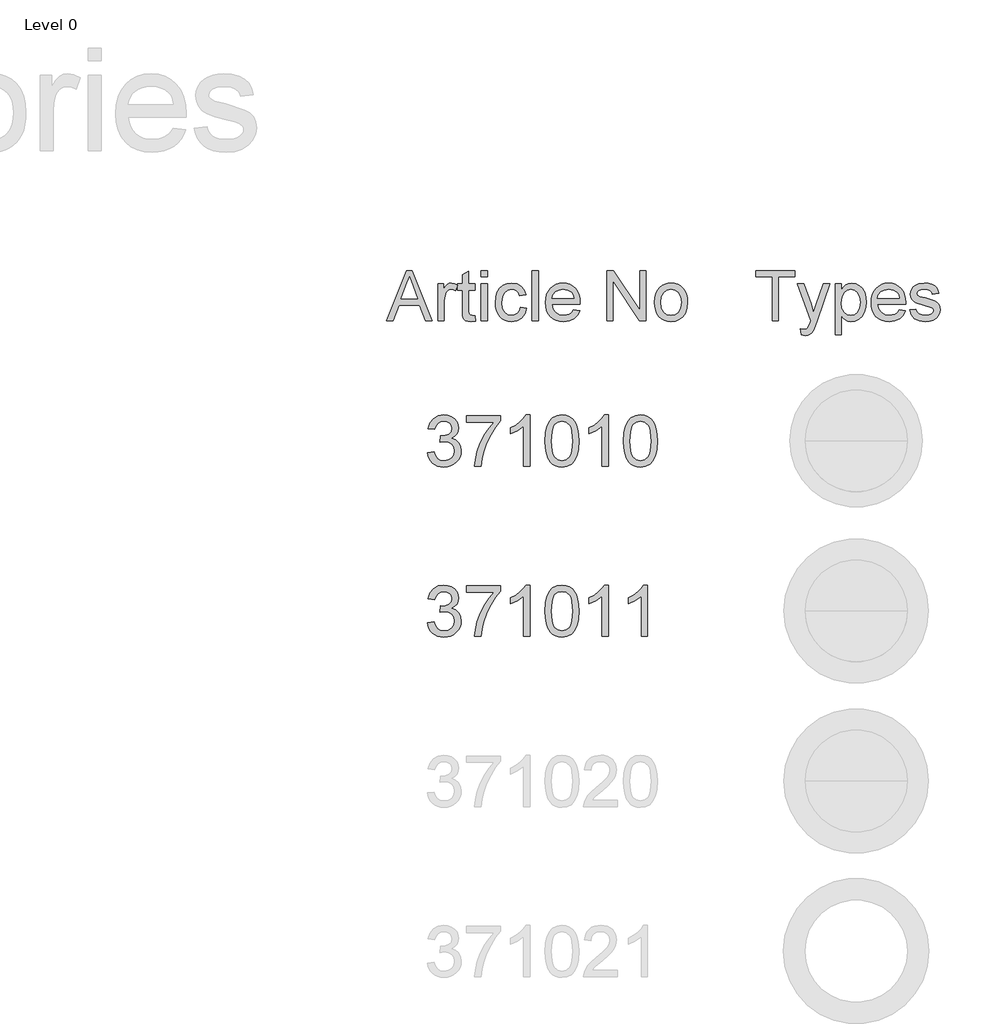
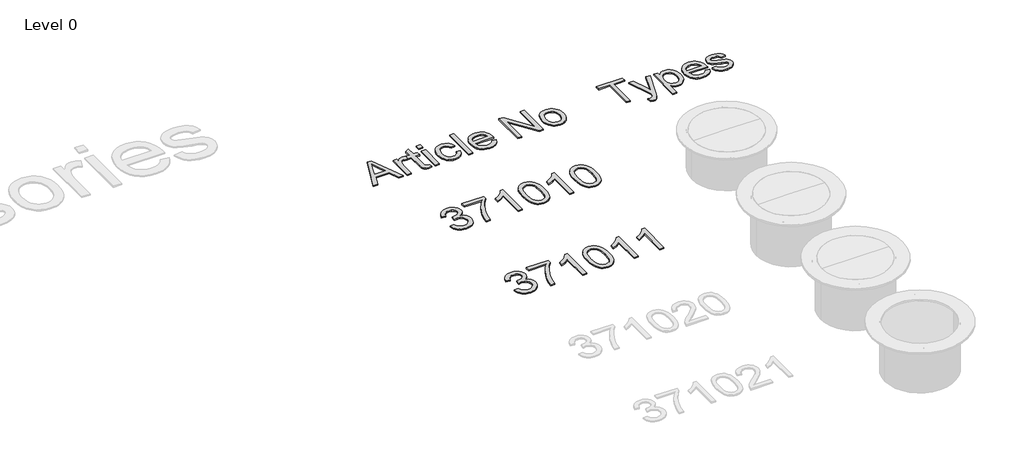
# One storey, part 11 of 20: 4 proxies.
"""IFC4 building model written with IfcOpenShell, lengths in millimetres."""

from ifc_helpers import new_model, si_unit, origin, origin_with_axes, place, context, project, spatial, polyline, outline, extrude, element, save

model = new_model("IFC4")

# Units and contexts
model_context = context("Model", 3, world=origin())
ifc_project = project(units=[si_unit("LENGTHUNIT", "METRE", prefix="MILLI")], contexts=[model_context])

# Site, building, storey
site = spatial("IfcSite", under=ifc_project)
building = spatial("IfcBuilding", under=site)
storey = spatial("IfcBuildingStorey", under=building, Name="Level 0", Elevation=0.0)

# Proxies
placement = place(None, origin())
element("IfcBuildingElementProxy", 1, Name="300mm Arial", ObjectType="300mm Arial", at=placement, inside=storey, context=model_context, shape_type="SweptSolid", body=[
    extrude(outline(polyline([(-4263.9663544, -8345.8973897), (-4263.9663544, -8087.4358512), (-4360.8894313, -8087.4358512), (-4360.8894313, -8050.5127743), (-4130.1202005, -8050.5127743), (-4130.1202005, -8087.4358512), (-4227.0432775, -8087.4358512), (-4227.0432775, -8345.8973897), (-4263.9663544, -8345.8973897)])), origin_with_axes(), (0.0, 0.0, 1.0), 10.0),
    extrude(outline(polyline([(-4093.1971236, -8428.9743127), (-4097.8125082, -8393.4214281), (-4079.0625082, -8396.6666204), (-4061.5384698, -8392.5921012), (-4050.7932775, -8381.2339281), (-4040.6971236, -8354.0464281), (-4037.8125082, -8345.1041204), (-4116.2740467, -8128.9743127), (-4077.331739, -8128.9743127), (-4035.7211621, -8249.407005), (-4021.2259698, -8297.580082), (-4006.7307775, -8255.032005), (-3963.9663544, -8128.9743127), (-3925.3125082, -8128.9743127), (-4000.8173159, -8351.0896974), (-4020.4327005, -8399.2627743), (-4030.4747678, -8414.64138), (-4041.8509698, -8425.2964281), (-4055.066114, -8431.51638), (-4070.6250082, -8433.5896974), (-4093.1971236, -8428.9743127)])), origin_with_axes(), (0.0, 0.0, 1.0), 10.0),
    extrude(outline(polyline([(-3894.7355852, -8428.9743127), (-3894.7355852, -8128.9743127), (-3857.8125082, -8128.9743127), (-3857.8125082, -8165.1762358), (-3845.769239, -8147.3186637), (-3832.2836621, -8134.563255), (-3816.5625082, -8126.9100099), (-3797.8125082, -8124.3589281), (-3772.8425563, -8127.9286397), (-3751.0096236, -8138.6377743), (-3733.2331813, -8155.8372935), (-3720.4327005, -8178.8781589), (-3712.6983255, -8206.0836877), (-3710.1202005, -8235.7771974), (-3713.0318592, -8267.3547214), (-3721.7668352, -8295.5969089), (-3736.0456813, -8319.0704666), (-3755.5889505, -8336.3421012), (-3778.3503688, -8346.970106), (-3802.2836621, -8350.5127743), (-3819.2578207, -8348.141981), (-3834.4110659, -8341.0296012), (-3847.3828207, -8330.2934233), (-3857.8125082, -8317.0512358), (-3857.8125082, -8428.9743127), (-3894.7355852, -8428.9743127)]), holes=[polyline([(-3857.8125082, -8239.1666204), (-3853.8191188, -8272.267582), (-3841.8389505, -8295.4166204), (-3824.1616669, -8309.0464281), (-3803.0769313, -8313.5896974), (-3781.6496477, -8308.8841685), (-3763.5216428, -8294.767582), (-3751.1628688, -8270.7711877), (-3747.0432775, -8236.4262358), (-3751.0637102, -8203.5055627), (-3763.1250082, -8180.032005), (-3780.7752486, -8165.969505), (-3801.5625082, -8161.282005), (-3822.4308977, -8166.266981), (-3840.7572198, -8181.2219089), (-3853.5486861, -8205.6780387), (-3857.8125082, -8239.1666204)])]), origin_with_axes(), (0.0, 0.0, 1.0), 10.0),
    extrude(outline(polyline([(-3516.706739, -8281.282005), (-3480.5048159, -8285.8973897), (-3493.5486861, -8313.1750339), (-3514.362989, -8333.5656589), (-3542.4789746, -8346.2759954), (-3577.4278928, -8350.5127743), (-3600.3380491, -8348.6851), (-3620.7512102, -8343.2020772), (-3638.667376, -8334.0637058), (-3654.0865467, -8321.2699858), (-3666.4858856, -8305.176987), (-3675.3425563, -8286.1407791), (-3680.6565587, -8264.161362), (-3682.4278928, -8239.2387358), (-3680.6385299, -8213.4710074), (-3675.2704409, -8190.7591685), (-3666.323626, -8171.103219), (-3653.7980852, -8154.5031589), (-3638.4194794, -8141.3150579), (-3620.9134698, -8131.8949858), (-3601.2800563, -8126.2429425), (-3579.519239, -8124.3589281), (-3558.4592931, -8126.2384353), (-3539.4140707, -8131.876957), (-3522.3835719, -8141.274493), (-3507.3677967, -8154.4310435), (-3495.1104349, -8170.9950459), (-3486.3551765, -8190.6149377), (-3481.1020215, -8213.290719), (-3479.3509698, -8239.0223897), (-3479.5673159, -8248.9743127), (-3645.5048159, -8248.9743127), (-3639.11359, -8276.6125339), (-3624.2668352, -8296.9310435), (-3602.8395515, -8309.4250339), (-3576.706739, -8313.5896974), (-3557.0552967, -8311.6606108), (-3540.5048159, -8305.8733512), (-3527.0552967, -8295.8673416), (-3516.706739, -8281.282005)]), holes=[polyline([(-3645.5048159, -8212.0512358), (-3516.2740467, -8212.0512358), (-3521.2680371, -8192.5440243), (-3531.0577005, -8178.5896974), (-3552.5841428, -8165.6089281), (-3579.6634698, -8161.282005), (-3604.5522919, -8164.7345291), (-3625.1322198, -8175.0921012), (-3639.4381092, -8191.2369329), (-3645.5048159, -8212.0512358)])]), origin_with_axes(), (0.0, 0.0, 1.0), 10.0),
    extrude(outline(polyline([(-3456.2740467, -8281.282005), (-3419.3509698, -8276.6666204), (-3413.5276525, -8292.4598897), (-3402.2596236, -8304.0704666), (-3385.4747678, -8311.2098897), (-3363.1009698, -8313.5896974), (-3340.9976044, -8311.408207), (-3325.456739, -8304.8637358), (-3316.2620275, -8295.3805627), (-3313.1971236, -8284.3829666), (-3316.2800563, -8274.9719089), (-3325.5288544, -8267.7964281), (-3363.5336621, -8257.267582), (-3419.1346236, -8239.2026781), (-3433.206138, -8230.1251541), (-3443.4014505, -8218.1089281), (-3449.5943592, -8203.9202262), (-3451.6586621, -8188.3252743), (-3450.0000082, -8174.0193849), (-3445.0240467, -8160.813255), (-3437.1814986, -8149.2297214), (-3426.9230852, -8139.7916204), (-3403.4495275, -8128.8661397), (-3371.6827005, -8124.3589281), (-3347.6502486, -8126.1708272), (-3326.7548159, -8131.6065243), (-3309.9519313, -8140.1341685), (-3298.1971236, -8151.2219089), (-3290.4086621, -8165.6900579), (-3285.5048159, -8184.3589281), (-3322.4278928, -8188.9743127), (-3327.0883496, -8177.3547214), (-3336.3101044, -8168.6017166), (-3350.1833015, -8163.1119329), (-3368.7980852, -8161.282005), (-3390.0000082, -8163.0308031), (-3404.1346236, -8168.2771974), (-3412.0853448, -8175.8493127), (-3414.7355852, -8184.5752743), (-3410.3365467, -8195.3204666), (-3396.5625082, -8203.469505), (-3364.7596236, -8211.330082), (-3310.5649121, -8228.7098897), (-3296.2500082, -8237.0211877), (-3285.3966428, -8248.3973897), (-3278.5546957, -8262.8745531), (-3276.2740467, -8280.4887358), (-3278.9513303, -8298.6978704), (-3286.9831813, -8315.8252743), (-3300.0631092, -8330.5277983), (-3317.8846236, -8341.4622935), (-3339.4110659, -8348.2501541), (-3363.6057775, -8350.5127743), (-3400.8353448, -8346.1497935), (-3428.0048159, -8333.0608512), (-3446.1418352, -8311.3901781), (-3456.2740467, -8281.282005)])), origin_with_axes(), (0.0, 0.0, 1.0), 10.0),
])
element("IfcBuildingElementProxy", 2, Name="300mm Arial", ObjectType="300mm Arial", at=placement, inside=storey, context=model_context, shape_type="SweptSolid", body=[
    extrude(outline(polyline([(-6292.0538732, -9120.650521), (-6254.3827568, -9115.9416315), (-6245.9490621, -9139.6148379), (-6233.5974241, -9155.5993106), (-6216.7208376, -9164.7043899), (-6194.7122972, -9167.7394164), (-6168.8869812, -9163.5639558), (-6148.947777, -9151.0375738), (-6136.2006659, -9132.3491685), (-6131.9516289, -9109.6876376), (-6136.1638777, -9088.1757379), (-6148.8006242, -9070.7289343), (-6167.930488, -9059.1682426), (-6191.6220885, -9055.3146787), (-6218.0360157, -9059.434957), (-6213.842161, -9021.7638407), (-6207.8088963, -9022.2052991), (-6185.2393359, -9019.5013664), (-6165.0610084, -9011.3895685), (-6150.8239752, -8997.66757), (-6146.0782975, -8978.1330361), (-6149.5179941, -8961.8634549), (-6159.8370841, -8948.6656883), (-6175.5824335, -8939.9192938), (-6195.3009084, -8937.003829), (-6215.0561716, -8939.946885), (-6231.2061912, -8948.7760529), (-6242.9968091, -8963.4913327), (-6249.6738673, -8984.0927244), (-6287.3449836, -8979.3838349), (-6276.2533415, -8945.5570854), (-6256.5164724, -8920.3019864), (-6229.513934, -8904.5750312), (-6196.6252836, -8899.3327127), (-6172.9428802, -8901.9170837), (-6151.1918572, -8909.6701968), (-6132.8529397, -8921.9022731), (-6119.4068528, -8937.923534), (-6111.1570991, -8956.3820131), (-6108.4071812, -8975.9257441), (-6111.0191433, -8994.1359029), (-6118.8550298, -9010.6538045), (-6131.8044761, -9024.7252908), (-6149.7571174, -9035.5962037), (-6126.1758815, -9045.1243474), (-6108.7014868, -9061.3479434), (-6097.8857561, -9083.3840749), (-6094.2805125, -9110.3498252), (-6096.0831343, -9129.4612948), (-6101.4909997, -9147.0644483), (-6110.5041085, -9163.1592856), (-6123.122461, -9177.7458067), (-6138.4953298, -9189.8491243), (-6155.771988, -9198.4943512), (-6174.9524356, -9203.6814873), (-6196.0366724, -9205.4105327), (-6215.0929598, -9203.9344062), (-6232.4569899, -9199.5060267), (-6248.1287629, -9192.1253942), (-6262.1082787, -9181.7925086), (-6273.8299188, -9169.1143754), (-6282.7280646, -9154.6979997), (-6288.802716, -9138.5433816), (-6292.0538732, -9120.650521)])), origin_with_axes(), (0.0, 0.0, 1.0), 10.0),
    extrude(outline(polyline([(-6061.3182858, -8941.7127186), (-6061.3182858, -8904.0416023), (-5863.5449252, -8904.0416023), (-5863.5449252, -8934.5022315), (-5891.7338831, -8970.1775879), (-5919.6469294, -9015.546635), (-5944.267432, -9066.4707002), (-5962.5787583, -9118.811111), (-5971.555079, -9157.9721494), (-5976.5582741, -9200.7016432), (-6014.2293904, -9200.7016432), (-6010.1550973, -9161.8716986), (-5999.2565932, -9115.7209023), (-5981.8281837, -9066.801794), (-5958.1641743, -9019.6669133), (-5930.5362365, -8977.0569813), (-5901.2160415, -8941.7127186), (-6061.3182858, -8941.7127186)])), origin_with_axes(), (0.0, 0.0, 1.0), 10.0),
    extrude(outline(polyline([(-5689.3160123, -9200.7016432), (-5726.9871286, -9200.7016432), (-5726.9871286, -8965.8457775), (-5762.6716821, -8991.2664233), (-5802.3293612, -9010.2859225), (-5802.3293612, -8974.6749453), (-5772.7424517, -8958.580108), (-5747.1102737, -8939.4318502), (-5726.9043551, -8919.0695818), (-5713.5962239, -8899.3327127), (-5689.3160123, -8899.3327127), (-5689.3160123, -9200.7016432)])), origin_with_axes(), (0.0, 0.0, 1.0), 10.0),
    extrude(outline(polyline([(-5599.847111, -9052.4451991), (-5597.078799, -9004.2066725), (-5588.773863, -8965.7354129), (-5575.0150764, -8936.442809), (-5555.8852126, -8915.7402497), (-5531.246316, -8903.434597), (-5500.9604307, -8899.3327127), (-5477.7470768, -8901.7607339), (-5456.9617441, -8909.0447974), (-5439.5793198, -8920.8997947), (-5426.5746913, -8937.0406172), (-5416.752242, -8957.3293093), (-5408.9163555, -8981.627915), (-5403.7844017, -9012.4840174), (-5402.0737504, -9052.4451991), (-5404.8144713, -9100.4078142), (-5413.0366339, -9138.7871034), (-5426.7126471, -9168.1072984), (-5445.8149197, -9188.8926311), (-5470.5089986, -9201.2810573), (-5500.9604307, -9205.4105327), (-5521.7089753, -9203.617108), (-5540.103075, -9198.2368338), (-5556.14273, -9189.2697102), (-5569.8279402, -9176.7157371), (-5582.9613275, -9154.0220165), (-5592.3423183, -9125.7456867), (-5597.9709129, -9091.8867475), (-5599.847111, -9052.4451991)]), holes=[polyline([(-5562.1759947, -9052.3716227), (-5557.7614108, -9111.6282151), (-5552.2431809, -9131.8962138), (-5544.517659, -9145.9240141), (-5524.799184, -9162.2855658), (-5500.9604307, -9167.7394164), (-5477.1216774, -9162.2671717), (-5457.4032025, -9145.8504377), (-5449.6776806, -9131.7996447), (-5444.1594507, -9111.5362446), (-5439.7448667, -9052.3716227), (-5444.0122979, -8994.4486026), (-5449.3465868, -8974.2472825), (-5456.8145913, -8959.8860891), (-5476.496278, -8942.7243941), (-5501.4018891, -8937.003829), (-5524.983125, -8942.0438124), (-5543.9290478, -8957.1637624), (-5551.9120871, -8972.7987472), (-5557.614258, -8993.8783855), (-5562.1759947, -9052.3716227)])]), origin_with_axes(), (0.0, 0.0, 1.0), 10.0),
    extrude(outline(polyline([(-5227.8448375, -9200.7016432), (-5265.5159538, -9200.7016432), (-5265.5159538, -8965.8457775), (-5301.2005073, -8991.2664233), (-5340.8581864, -9010.2859225), (-5340.8581864, -8974.6749453), (-5311.271277, -8958.580108), (-5285.639099, -8939.4318502), (-5265.4331804, -8919.0695818), (-5252.1250492, -8899.3327127), (-5227.8448375, -8899.3327127), (-5227.8448375, -9200.7016432)])), origin_with_axes(), (0.0, 0.0, 1.0), 10.0),
    extrude(outline(polyline([(-5138.3759363, -9052.4451991), (-5135.6076243, -9004.2066725), (-5127.3026882, -8965.7354129), (-5113.5439016, -8936.442809), (-5094.4140379, -8915.7402497), (-5069.7751412, -8903.434597), (-5039.489256, -8899.3327127), (-5016.2759021, -8901.7607339), (-4995.4905694, -8909.0447974), (-4978.1081451, -8920.8997947), (-4965.1035166, -8937.0406172), (-4955.2810673, -8957.3293093), (-4947.4451808, -8981.627915), (-4942.313227, -9012.4840174), (-4940.6025757, -9052.4451991), (-4943.3432965, -9100.4078142), (-4951.5654591, -9138.7871034), (-4965.2414723, -9168.1072984), (-4984.3437449, -9188.8926311), (-5009.0378238, -9201.2810573), (-5039.489256, -9205.4105327), (-5060.2378005, -9203.617108), (-5078.6319003, -9198.2368338), (-5094.6715553, -9189.2697102), (-5108.3567655, -9176.7157371), (-5121.4901527, -9154.0220165), (-5130.8711436, -9125.7456867), (-5136.4997381, -9091.8867475), (-5138.3759363, -9052.4451991)]), holes=[polyline([(-5100.70482, -9052.3716227), (-5096.290236, -9111.6282151), (-5090.7720061, -9131.8962138), (-5083.0464842, -9145.9240141), (-5063.3280093, -9162.2855658), (-5039.489256, -9167.7394164), (-5015.6505027, -9162.2671717), (-4995.9320277, -9145.8504377), (-4988.2065058, -9131.7996447), (-4982.6882759, -9111.5362446), (-4978.273692, -9052.3716227), (-4982.5411231, -8994.4486026), (-4987.8754121, -8974.2472825), (-4995.3434166, -8959.8860891), (-5015.0251033, -8942.7243941), (-5039.9307144, -8937.003829), (-5063.5119503, -8942.0438124), (-5082.457873, -8957.1637624), (-5090.4409123, -8972.7987472), (-5096.1430832, -8993.8783855), (-5100.70482, -9052.3716227)])]), origin_with_axes(), (0.0, 0.0, 1.0), 10.0),
])
element("IfcBuildingElementProxy", 3, Name="300mm Arial", ObjectType="300mm Arial", at=placement, inside=storey, context=model_context, shape_type="SweptSolid", body=[
    extrude(outline(polyline([(-6292.0538732, -10120.650521), (-6254.3827568, -10115.9416315), (-6245.9490621, -10139.6148379), (-6233.5974241, -10155.5993106), (-6216.7208376, -10164.7043899), (-6194.7122972, -10167.7394164), (-6168.8869812, -10163.5639558), (-6148.947777, -10151.0375738), (-6136.2006659, -10132.3491685), (-6131.9516289, -10109.6876376), (-6136.1638777, -10088.1757379), (-6148.8006242, -10070.7289343), (-6167.930488, -10059.1682426), (-6191.6220885, -10055.3146787), (-6218.0360157, -10059.434957), (-6213.842161, -10021.7638407), (-6207.8088963, -10022.2052991), (-6185.2393359, -10019.5013664), (-6165.0610084, -10011.3895685), (-6150.8239752, -9997.66757), (-6146.0782975, -9978.1330361), (-6149.5179941, -9961.8634549), (-6159.8370841, -9948.6656883), (-6175.5824335, -9939.9192938), (-6195.3009084, -9937.003829), (-6215.0561716, -9939.946885), (-6231.2061912, -9948.7760529), (-6242.9968091, -9963.4913327), (-6249.6738673, -9984.0927244), (-6287.3449836, -9979.3838349), (-6276.2533415, -9945.5570854), (-6256.5164724, -9920.3019864), (-6229.513934, -9904.5750312), (-6196.6252836, -9899.3327127), (-6172.9428802, -9901.9170837), (-6151.1918572, -9909.6701968), (-6132.8529397, -9921.9022731), (-6119.4068528, -9937.923534), (-6111.1570991, -9956.3820131), (-6108.4071812, -9975.9257441), (-6111.0191433, -9994.1359029), (-6118.8550298, -10010.6538045), (-6131.8044761, -10024.7252908), (-6149.7571174, -10035.5962037), (-6126.1758815, -10045.1243474), (-6108.7014868, -10061.3479434), (-6097.8857561, -10083.3840749), (-6094.2805125, -10110.3498252), (-6096.0831343, -10129.4612948), (-6101.4909997, -10147.0644483), (-6110.5041085, -10163.1592856), (-6123.122461, -10177.7458067), (-6138.4953298, -10189.8491243), (-6155.771988, -10198.4943512), (-6174.9524356, -10203.6814873), (-6196.0366724, -10205.4105327), (-6215.0929598, -10203.9344062), (-6232.4569899, -10199.5060267), (-6248.1287629, -10192.1253942), (-6262.1082787, -10181.7925086), (-6273.8299188, -10169.1143754), (-6282.7280646, -10154.6979997), (-6288.802716, -10138.5433816), (-6292.0538732, -10120.650521)])), origin_with_axes(), (0.0, 0.0, 1.0), 10.0),
    extrude(outline(polyline([(-6061.3182858, -9941.7127186), (-6061.3182858, -9904.0416023), (-5863.5449252, -9904.0416023), (-5863.5449252, -9934.5022315), (-5891.7338831, -9970.1775879), (-5919.6469294, -10015.546635), (-5944.267432, -10066.4707002), (-5962.5787583, -10118.811111), (-5971.555079, -10157.9721494), (-5976.5582741, -10200.7016432), (-6014.2293904, -10200.7016432), (-6010.1550973, -10161.8716986), (-5999.2565932, -10115.7209023), (-5981.8281837, -10066.801794), (-5958.1641743, -10019.6669133), (-5930.5362365, -9977.0569813), (-5901.2160415, -9941.7127186), (-6061.3182858, -9941.7127186)])), origin_with_axes(), (0.0, 0.0, 1.0), 10.0),
    extrude(outline(polyline([(-5689.3160123, -10200.7016432), (-5726.9871286, -10200.7016432), (-5726.9871286, -9965.8457775), (-5762.6716821, -9991.2664233), (-5802.3293612, -10010.2859225), (-5802.3293612, -9974.6749453), (-5772.7424517, -9958.580108), (-5747.1102737, -9939.4318502), (-5726.9043551, -9919.0695818), (-5713.5962239, -9899.3327127), (-5689.3160123, -9899.3327127), (-5689.3160123, -10200.7016432)])), origin_with_axes(), (0.0, 0.0, 1.0), 10.0),
    extrude(outline(polyline([(-5599.847111, -10052.4451991), (-5597.078799, -10004.2066725), (-5588.773863, -9965.7354129), (-5575.0150764, -9936.442809), (-5555.8852126, -9915.7402497), (-5531.246316, -9903.434597), (-5500.9604307, -9899.3327127), (-5477.7470768, -9901.7607339), (-5456.9617441, -9909.0447974), (-5439.5793198, -9920.8997947), (-5426.5746913, -9937.0406172), (-5416.752242, -9957.3293093), (-5408.9163555, -9981.627915), (-5403.7844017, -10012.4840174), (-5402.0737504, -10052.4451991), (-5404.8144713, -10100.4078142), (-5413.0366339, -10138.7871034), (-5426.7126471, -10168.1072984), (-5445.8149197, -10188.8926311), (-5470.5089986, -10201.2810573), (-5500.9604307, -10205.4105327), (-5521.7089753, -10203.617108), (-5540.103075, -10198.2368338), (-5556.14273, -10189.2697102), (-5569.8279402, -10176.7157371), (-5582.9613275, -10154.0220165), (-5592.3423183, -10125.7456867), (-5597.9709129, -10091.8867475), (-5599.847111, -10052.4451991)]), holes=[polyline([(-5562.1759947, -10052.3716227), (-5557.7614108, -10111.6282151), (-5552.2431809, -10131.8962138), (-5544.517659, -10145.9240141), (-5524.799184, -10162.2855658), (-5500.9604307, -10167.7394164), (-5477.1216774, -10162.2671717), (-5457.4032025, -10145.8504377), (-5449.6776806, -10131.7996447), (-5444.1594507, -10111.5362446), (-5439.7448667, -10052.3716227), (-5444.0122979, -9994.4486026), (-5449.3465868, -9974.2472825), (-5456.8145913, -9959.8860891), (-5476.496278, -9942.7243941), (-5501.4018891, -9937.003829), (-5524.983125, -9942.0438124), (-5543.9290478, -9957.1637624), (-5551.9120871, -9972.7987472), (-5557.614258, -9993.8783855), (-5562.1759947, -10052.3716227)])]), origin_with_axes(), (0.0, 0.0, 1.0), 10.0),
    extrude(outline(polyline([(-5227.8448375, -10200.7016432), (-5265.5159538, -10200.7016432), (-5265.5159538, -9965.8457775), (-5301.2005073, -9991.2664233), (-5340.8581864, -10010.2859225), (-5340.8581864, -9974.6749453), (-5311.271277, -9958.580108), (-5285.639099, -9939.4318502), (-5265.4331804, -9919.0695818), (-5252.1250492, -9899.3327127), (-5227.8448375, -9899.3327127), (-5227.8448375, -10200.7016432)])), origin_with_axes(), (0.0, 0.0, 1.0), 10.0),
    extrude(outline(polyline([(-4997.1092501, -10200.7016432), (-5034.7803664, -10200.7016432), (-5034.7803664, -9965.8457775), (-5070.46492, -9991.2664233), (-5110.1225991, -10010.2859225), (-5110.1225991, -9974.6749453), (-5080.5356896, -9958.580108), (-5054.9035116, -9939.4318502), (-5034.697593, -9919.0695818), (-5021.3894618, -9899.3327127), (-4997.1092501, -9899.3327127), (-4997.1092501, -10200.7016432)])), origin_with_axes(), (0.0, 0.0, 1.0), 10.0),
])
element("IfcBuildingElementProxy", 4, Name="300mm Arial", ObjectType="300mm Arial", at=placement, inside=storey, context=model_context, shape_type="SweptSolid", body=[
    extrude(outline(polyline([(-6532.2115467, -8345.8973897), (-6414.3028928, -8050.5127743), (-6382.8605852, -8050.5127743), (-6264.9519313, -8345.8973897), (-6303.9663544, -8345.8973897), (-6337.7884698, -8253.5896974), (-6459.4471236, -8253.5896974), (-6493.1971236, -8345.8973897), (-6532.2115467, -8345.8973897)]), holes=[polyline([(-6445.8894313, -8216.6666204), (-6351.2740467, -8216.6666204), (-6377.8846236, -8144.0464281), (-6398.581739, -8087.4358512), (-6416.9711621, -8137.7002743), (-6445.8894313, -8216.6666204)])]), origin_with_axes(), (0.0, 0.0, 1.0), 10.0),
    extrude(outline(polyline([(-6230.1202005, -8345.8973897), (-6230.1202005, -8128.9743127), (-6197.8125082, -8128.9743127), (-6197.8125082, -8161.0656589), (-6185.8774121, -8142.4598897), (-6174.8798159, -8131.4983512), (-6163.8461621, -8126.1437839), (-6151.8028928, -8124.3589281), (-6133.4134698, -8127.2074858), (-6114.7355852, -8135.7531589), (-6127.0673159, -8168.8541204), (-6140.0480852, -8163.1750339), (-6153.0288544, -8161.282005), (-6164.0534938, -8163.1029185), (-6173.9062582, -8168.5656589), (-6181.8659938, -8177.2555627), (-6187.2115467, -8188.7579666), (-6191.7007294, -8209.3829666), (-6193.1971236, -8231.8829666), (-6193.1971236, -8345.8973897), (-6230.1202005, -8345.8973897)])), origin_with_axes(), (0.0, 0.0, 1.0), 10.0),
    extrude(outline(polyline([(-6013.1971236, -8315.1041204), (-6008.581739, -8346.9791204), (-6036.2019313, -8350.5127743), (-6053.9242871, -8348.9803224), (-6067.1394313, -8344.3829666), (-6076.4783736, -8337.29763), (-6082.5721236, -8328.3012358), (-6085.925489, -8312.8505147), (-6087.0432775, -8286.4021974), (-6087.0432775, -8165.8973897), (-6114.7355852, -8165.8973897), (-6114.7355852, -8128.9743127), (-6087.0432775, -8128.9743127), (-6087.0432775, -8076.2579666), (-6050.1202005, -8054.5512358), (-6050.1202005, -8128.9743127), (-6013.1971236, -8128.9743127), (-6013.1971236, -8165.8973897), (-6050.1202005, -8165.8973897), (-6050.1202005, -8285.3204666), (-6048.1730852, -8304.3589281), (-6041.862989, -8311.1017166), (-6029.2788544, -8313.5896974), (-6013.1971236, -8315.1041204)])), origin_with_axes(), (0.0, 0.0, 1.0), 10.0),
    extrude(outline(polyline([(-5976.2740467, -8087.4358512), (-5976.2740467, -8050.5127743), (-5939.3509698, -8050.5127743), (-5939.3509698, -8087.4358512), (-5976.2740467, -8087.4358512)])), origin_with_axes(), (0.0, 0.0, 1.0), 10.0),
    extrude(outline(polyline([(-5976.2740467, -8345.8973897), (-5976.2740467, -8128.9743127), (-5939.3509698, -8128.9743127), (-5939.3509698, -8345.8973897), (-5976.2740467, -8345.8973897)])), origin_with_axes(), (0.0, 0.0, 1.0), 10.0),
    extrude(outline(polyline([(-5745.5048159, -8267.4358512), (-5708.581739, -8272.0512358), (-5718.8762102, -8304.8907791), (-5738.2211621, -8329.7074858), (-5764.7956813, -8345.3114522), (-5796.7788544, -8350.5127743), (-5817.4872378, -8348.6986216), (-5836.0546957, -8343.2561637), (-5852.4812282, -8334.1854005), (-5866.7668352, -8321.486332), (-5878.3300864, -8305.3978404), (-5886.5895515, -8286.1588079), (-5891.5452306, -8263.7692346), (-5893.1971236, -8238.2291204), (-5890.3756092, -8205.3715483), (-5881.9110659, -8176.8949858), (-5867.6682775, -8153.8991925), (-5847.5120275, -8137.4839281), (-5823.3984457, -8127.6401781), (-5797.2836621, -8124.3589281), (-5766.0847438, -8128.8661397), (-5741.1418352, -8142.3877743), (-5723.2482053, -8164.2026781), (-5713.1971236, -8193.5896974), (-5750.1202005, -8198.205082), (-5756.8179169, -8182.0963079), (-5767.2476044, -8170.548832), (-5780.83234, -8163.5987118), (-5796.9952005, -8161.282005), (-5820.8563784, -8165.8433031), (-5839.7956813, -8179.5271974), (-5852.1544553, -8203.0728704), (-5856.2740467, -8237.219505), (-5852.2445996, -8271.8258752), (-5840.1562582, -8295.4526781), (-5821.5595034, -8309.0554425), (-5798.0048159, -8313.5896974), (-5778.8852246, -8310.7591685), (-5763.2091428, -8302.267582), (-5751.8058977, -8287.8985916), (-5745.5048159, -8267.4358512)])), origin_with_axes(), (0.0, 0.0, 1.0), 10.0),
    extrude(outline(polyline([(-5676.2740467, -8345.8973897), (-5676.2740467, -8050.5127743), (-5639.3509698, -8050.5127743), (-5639.3509698, -8345.8973897), (-5676.2740467, -8345.8973897)])), origin_with_axes(), (0.0, 0.0, 1.0), 10.0),
    extrude(outline(polyline([(-5432.0913544, -8281.282005), (-5395.8894313, -8285.8973897), (-5408.9333015, -8313.1750339), (-5429.7476044, -8333.5656589), (-5457.86359, -8346.2759954), (-5492.8125082, -8350.5127743), (-5515.7226645, -8348.6851), (-5536.1358255, -8343.2020772), (-5554.0519914, -8334.0637058), (-5569.4711621, -8321.2699858), (-5581.870501, -8305.176987), (-5590.7271717, -8286.1407791), (-5596.0411741, -8264.161362), (-5597.8125082, -8239.2387358), (-5596.0231453, -8213.4710074), (-5590.6550563, -8190.7591685), (-5581.7082414, -8171.103219), (-5569.1827005, -8154.5031589), (-5553.8040948, -8141.3150579), (-5536.2980852, -8131.8949858), (-5516.6646717, -8126.2429425), (-5494.9038544, -8124.3589281), (-5473.8439085, -8126.2384353), (-5454.7986861, -8131.876957), (-5437.7681873, -8141.274493), (-5422.7524121, -8154.4310435), (-5410.4950503, -8170.9950459), (-5401.7397919, -8190.6149377), (-5396.4866368, -8213.290719), (-5394.7355852, -8239.0223897), (-5394.9519313, -8248.9743127), (-5560.8894313, -8248.9743127), (-5554.4982053, -8276.6125339), (-5539.6514505, -8296.9310435), (-5518.2241669, -8309.4250339), (-5492.0913544, -8313.5896974), (-5472.4399121, -8311.6606108), (-5455.8894313, -8305.8733512), (-5442.4399121, -8295.8673416), (-5432.0913544, -8281.282005)]), holes=[polyline([(-5560.8894313, -8212.0512358), (-5431.6586621, -8212.0512358), (-5436.6526525, -8192.5440243), (-5446.4423159, -8178.5896974), (-5467.9687582, -8165.6089281), (-5495.0480852, -8161.282005), (-5519.9369073, -8164.7345291), (-5540.5168352, -8175.0921012), (-5554.8227246, -8191.2369329), (-5560.8894313, -8212.0512358)])]), origin_with_axes(), (0.0, 0.0, 1.0), 10.0),
    extrude(outline(polyline([(-5237.8125082, -8345.8973897), (-5237.8125082, -8050.5127743), (-5198.2932775, -8050.5127743), (-5043.9663544, -8284.5271974), (-5043.9663544, -8050.5127743), (-5007.0432775, -8050.5127743), (-5007.0432775, -8345.8973897), (-5046.5625082, -8345.8973897), (-5200.8894313, -8111.8108512), (-5200.8894313, -8345.8973897), (-5237.8125082, -8345.8973897)])), origin_with_axes(), (0.0, 0.0, 1.0), 10.0),
    extrude(outline(polyline([(-4956.2740467, -8237.4358512), (-4954.277352, -8209.3424017), (-4948.2872678, -8185.1341685), (-4938.3037943, -8164.8111517), (-4924.3269313, -8148.3733512), (-4910.2554169, -8137.8670411), (-4894.7235659, -8130.3625339), (-4877.7313784, -8125.8598296), (-4859.2788544, -8124.3589281), (-4838.9085118, -8126.1866024), (-4820.4897919, -8131.6696252), (-4804.0226945, -8140.8079966), (-4789.5072198, -8153.6017166), (-4777.6600142, -8169.6180928), (-4769.1977246, -8188.4244329), (-4764.1203508, -8210.020737), (-4762.4278928, -8234.407005), (-4765.4206813, -8271.7086877), (-4774.3990467, -8300.1041204), (-4789.1015707, -8321.3691445), (-4809.2668352, -8337.2796012), (-4833.2181573, -8347.204481), (-4859.2788544, -8350.5127743), (-4879.9466729, -8348.6918608), (-4898.5366669, -8343.2291204), (-4915.0488364, -8334.1245531), (-4929.4831813, -8321.3781589), (-4941.2041849, -8305.2062839), (-4949.5763303, -8285.8252743), (-4954.5996176, -8263.23513), (-4956.2740467, -8237.4358512)]), holes=[polyline([(-4919.3509698, -8237.3637358), (-4915.0781332, -8270.7802022), (-4902.2596236, -8294.5872935), (-4882.9687582, -8308.8390964), (-4859.2788544, -8313.5896974), (-4835.6971236, -8308.8120531), (-4816.4423159, -8294.4791204), (-4803.6238063, -8270.3565243), (-4799.3509698, -8236.2098897), (-4803.6508496, -8203.766981), (-4816.550489, -8180.2844089), (-4835.83234, -8166.032606), (-4859.2788544, -8161.282005), (-4882.9687582, -8166.0145772), (-4902.2596236, -8180.2122935), (-4915.0781332, -8203.9652983), (-4919.3509698, -8237.3637358)])]), origin_with_axes(), (0.0, 0.0, 1.0), 10.0),
])

save(model, "model.ifc")
